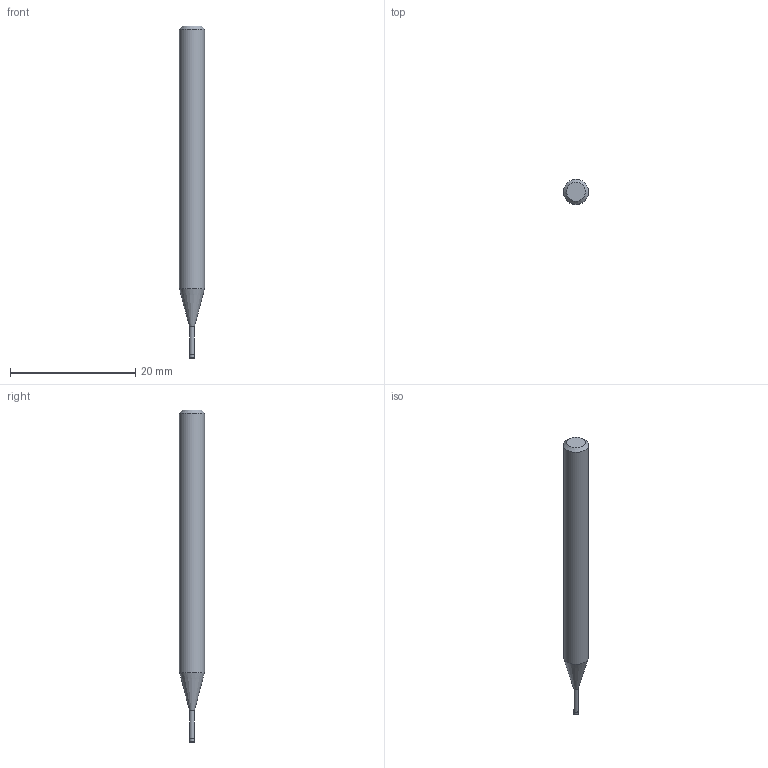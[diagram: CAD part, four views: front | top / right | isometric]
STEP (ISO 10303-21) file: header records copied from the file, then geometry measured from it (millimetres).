
FILE_DESCRIPTION((''),'2;1');
FILE_NAME('C:\Users\nsx150\AppData\Local\Temp\Mastercam 2021\LJSIDMOTM8\TEMP.step','2021-08-03T13:49:33',(''),(''),'STEP Write','Mastercam 2021 ... CNC Software, Inc.','');
FILE_SCHEMA(('AUTOMOTIVE_DESIGN'));
Length unit declared in the file: millimetre
Products named in the file (1): None
Bounding box: 4 x 4 x 53 mm (x, y, z)
Volume: 559.1 mm3; surface area: 596 mm2
Topology: 2 solids, 2 shells, 10 faces, 14 edges, 8 vertices
Faces by surface type: plane 4, cylinder 3, cone 2, torus 1
Full cylindrical faces by diameter (mm): 0.76 x1, 0.8 x1, 4 x1
Entity records: 232 total; most frequent: DIRECTION 40, CARTESIAN_POINT 28, AXIS2_PLACEMENT_3D 20, ORIENTED_EDGE 16, EDGE_LOOP 16, STYLED_ITEM 13, ADVANCED_FACE 10, FACE_BOUND 10
